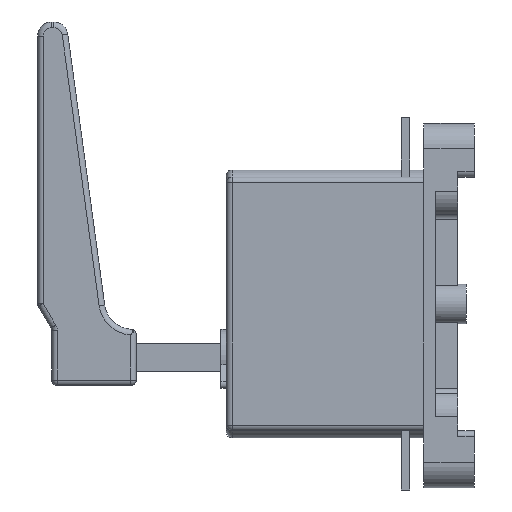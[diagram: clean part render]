
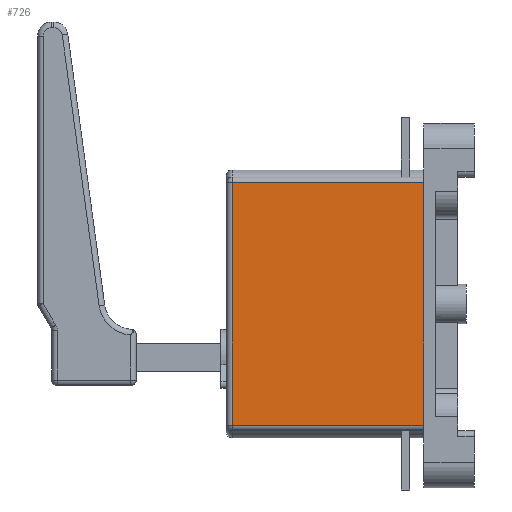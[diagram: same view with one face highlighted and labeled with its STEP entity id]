
A CAD part, left-side view. The second image highlights one B-rep face of the part: STEP entity #726.
In plain terms, the highlighted planar face has unit normal (-1, 0, 0).
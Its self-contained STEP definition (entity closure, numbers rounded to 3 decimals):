
#726=ADVANCED_FACE('',(#1026),#853,.F.);
#853=PLANE('',#4580);
#1026=FACE_OUTER_BOUND('',#1329,.T.);
#1329=EDGE_LOOP('',(#2360,#2361,#2362,#2363));
#2360=ORIENTED_EDGE('',*,*,#3426,.F.);
#2361=ORIENTED_EDGE('',*,*,#3413,.T.);
#2362=ORIENTED_EDGE('',*,*,#3427,.T.);
#2363=ORIENTED_EDGE('',*,*,#3149,.T.);
#2688=VERTEX_POINT('',#6465);
#2689=VERTEX_POINT('',#6467);
#2858=VERTEX_POINT('',#7027);
#2862=VERTEX_POINT('',#7043);
#3149=EDGE_CURVE('',#2689,#2688,#3629,.T.);
#3413=EDGE_CURVE('',#2858,#2862,#3774,.T.);
#3426=EDGE_CURVE('',#2858,#2688,#3781,.T.);
#3427=EDGE_CURVE('',#2862,#2689,#3782,.T.);
#3629=LINE('',#6466,#3984);
#3774=LINE('',#7044,#4129);
#3781=LINE('',#7081,#4136);
#3782=LINE('',#7083,#4137);
#3984=VECTOR('',#5184,1.);
#4129=VECTOR('',#5767,1.);
#4136=VECTOR('',#5792,1.);
#4137=VECTOR('',#5795,1.);
#4580=AXIS2_PLACEMENT_3D('',#7084,#5796,#5797);
#5184=DIRECTION('',(0.,0.,1.));
#5767=DIRECTION('',(0.,0.,-1.));
#5792=DIRECTION('',(0.,-1.,0.));
#5795=DIRECTION('',(0.,-1.,0.));
#5796=DIRECTION('',(1.,0.,0.));
#5797=DIRECTION('',(0.,0.,-1.));
#6465=CARTESIAN_POINT('',(-41.,0.,43.));
#6466=CARTESIAN_POINT('',(-41.,0.,-43.));
#6467=CARTESIAN_POINT('',(-41.,0.,-43.));
#7027=CARTESIAN_POINT('',(-41.,68.,43.));
#7043=CARTESIAN_POINT('',(-41.,68.,-43.));
#7044=CARTESIAN_POINT('',(-41.,68.,-43.));
#7081=CARTESIAN_POINT('',(-41.,35.,43.));
#7083=CARTESIAN_POINT('',(-41.,35.,-43.));
#7084=CARTESIAN_POINT('',(-41.,35.,-43.));
